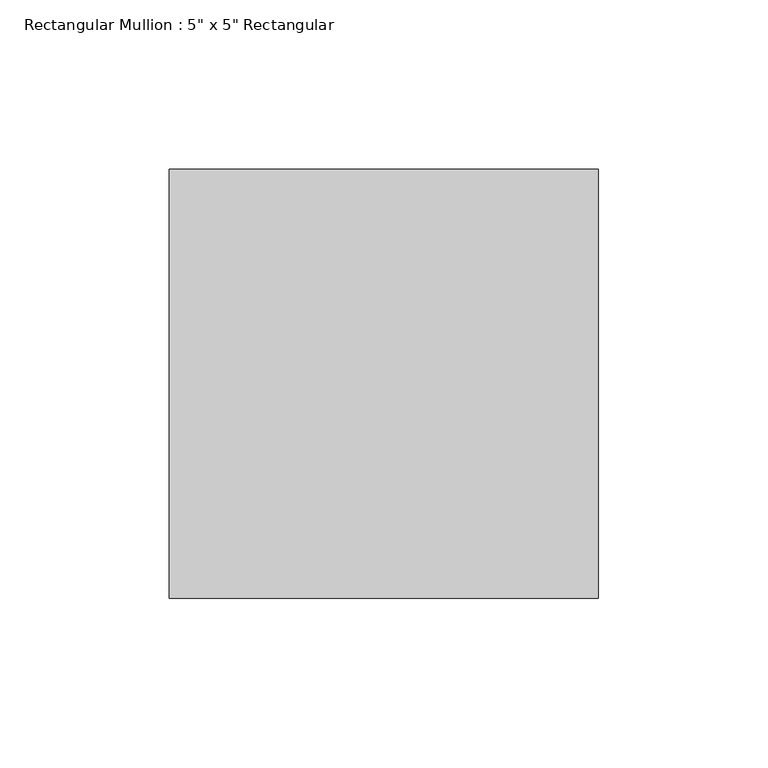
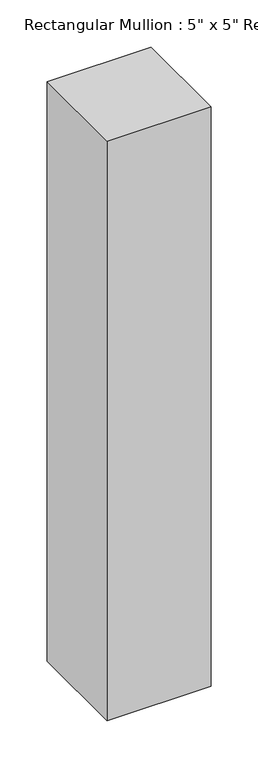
"""IFC4 building model written with IfcOpenShell, lengths in millimetres: member geometry."""

from ifc_helpers import new_model, si_unit, frame, origin, place, context, project, spatial, polyline, outline, extrude, source, transform, mapped, element, save


def member_3a7f528f(model_context):
    return source(origin(), model_context, "Body", "SweptSolid", [
        extrude(outline(polyline([(0.0, 63.5), (0.0, -63.5), (-127.0, -63.5), (-127.0, 63.5), (0.0, 63.5)])), frame((0.0, 0.0, -749.3), z_axis=(0.0, 0.0, 1.0), x_axis=(1.0, 0.0, 0.0)), (0.0, 0.0, 1.0), 749.3),
    ])


if __name__ == "__main__":
    model = new_model("IFC4")
    model_context = context("Model", 3, world=origin())
    ifc_project = project(units=[si_unit("LENGTHUNIT", "METRE", prefix="MILLI")], contexts=[model_context])
    site = spatial("IfcSite", under=ifc_project)
    building = spatial("IfcBuilding", under=site)
    placement = place(None, origin())
    member_shape = member_3a7f528f(model_context)
    element("IfcMember", 1, ObjectType="Rectangular Mullion : 5\" x 5\" Rectangular", at=placement, inside=building, context=model_context, shape_type="MappedRepresentation", body=[
        mapped(member_shape, transform((0.0, 0.0, 0.0), x_axis=(1.0, 0.0, 0.0), y_axis=(0.0, 1.0, 0.0), z_axis=(0.0, 0.0, 1.0))),
    ])
    save(model, "model.ifc")
